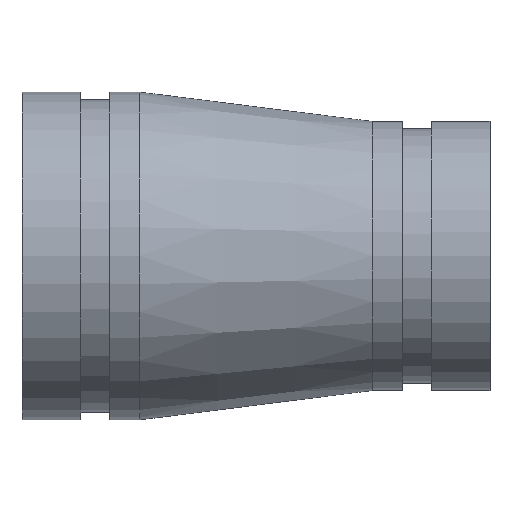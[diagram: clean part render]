
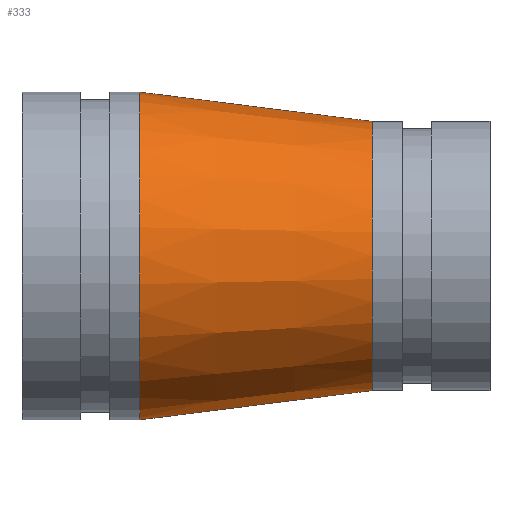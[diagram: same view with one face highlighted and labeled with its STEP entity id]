
A CAD part, top view. The second image highlights one B-rep face of the part: STEP entity #333.
In plain terms, the highlighted conical face has half-angle 7.182 degrees and reference radius 40.481 mm.
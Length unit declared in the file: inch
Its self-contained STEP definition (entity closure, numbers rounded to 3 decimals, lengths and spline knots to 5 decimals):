
#65=FACE_OUTER_BOUND('',#81,.T.);
#81=EDGE_LOOP('',(#229,#230,#231,#232,#233,#234));
#103=LINE('',#571,#113);
#113=VECTOR('',#438,1.59375);
#123=CIRCLE('',#370,1.4375);
#124=CIRCLE('',#371,1.4375);
#125=CIRCLE('',#372,1.75);
#126=CIRCLE('',#373,1.75);
#155=VERTEX_POINT('',#566);
#156=VERTEX_POINT('',#567);
#157=VERTEX_POINT('',#570);
#158=VERTEX_POINT('',#572);
#187=EDGE_CURVE('',#155,#156,#123,.T.);
#188=EDGE_CURVE('',#156,#155,#124,.T.);
#189=EDGE_CURVE('',#156,#157,#103,.T.);
#190=EDGE_CURVE('',#157,#158,#125,.T.);
#191=EDGE_CURVE('',#158,#157,#126,.T.);
#229=ORIENTED_EDGE('',*,*,#187,.F.);
#230=ORIENTED_EDGE('',*,*,#188,.F.);
#231=ORIENTED_EDGE('',*,*,#189,.T.);
#232=ORIENTED_EDGE('',*,*,#190,.T.);
#233=ORIENTED_EDGE('',*,*,#191,.T.);
#234=ORIENTED_EDGE('',*,*,#189,.F.);
#313=CONICAL_SURFACE('',#369,1.59375,0.125);
#333=ADVANCED_FACE('',(#65),#313,.T.);
#369=AXIS2_PLACEMENT_3D('',#565,#432,#433);
#370=AXIS2_PLACEMENT_3D('',#568,#434,#435);
#371=AXIS2_PLACEMENT_3D('',#569,#436,#437);
#372=AXIS2_PLACEMENT_3D('',#573,#439,#440);
#373=AXIS2_PLACEMENT_3D('',#574,#441,#442);
#432=DIRECTION('center_axis',(-1.,0.,0.));
#433=DIRECTION('ref_axis',(0.,1.,0.));
#434=DIRECTION('center_axis',(1.,0.,0.));
#435=DIRECTION('ref_axis',(0.,1.,0.));
#436=DIRECTION('center_axis',(1.,0.,0.));
#437=DIRECTION('ref_axis',(0.,1.,0.));
#438=DIRECTION('',(-0.992,-0.125,0.));
#439=DIRECTION('center_axis',(1.,0.,0.));
#440=DIRECTION('ref_axis',(0.,1.,0.));
#441=DIRECTION('center_axis',(1.,0.,0.));
#442=DIRECTION('ref_axis',(0.,1.,0.));
#565=CARTESIAN_POINT('Origin',(2.5,0.,0.));
#566=CARTESIAN_POINT('',(3.74,1.4375,0.));
#567=CARTESIAN_POINT('',(3.74,-1.4375,0.));
#568=CARTESIAN_POINT('Origin',(3.74,0.,0.));
#569=CARTESIAN_POINT('Origin',(3.74,0.,0.));
#570=CARTESIAN_POINT('',(1.26,-1.75,0.));
#571=CARTESIAN_POINT('',(2.5,-1.59375,0.));
#572=CARTESIAN_POINT('',(1.26,1.75,0.));
#573=CARTESIAN_POINT('Origin',(1.26,0.,0.));
#574=CARTESIAN_POINT('Origin',(1.26,0.,0.));
